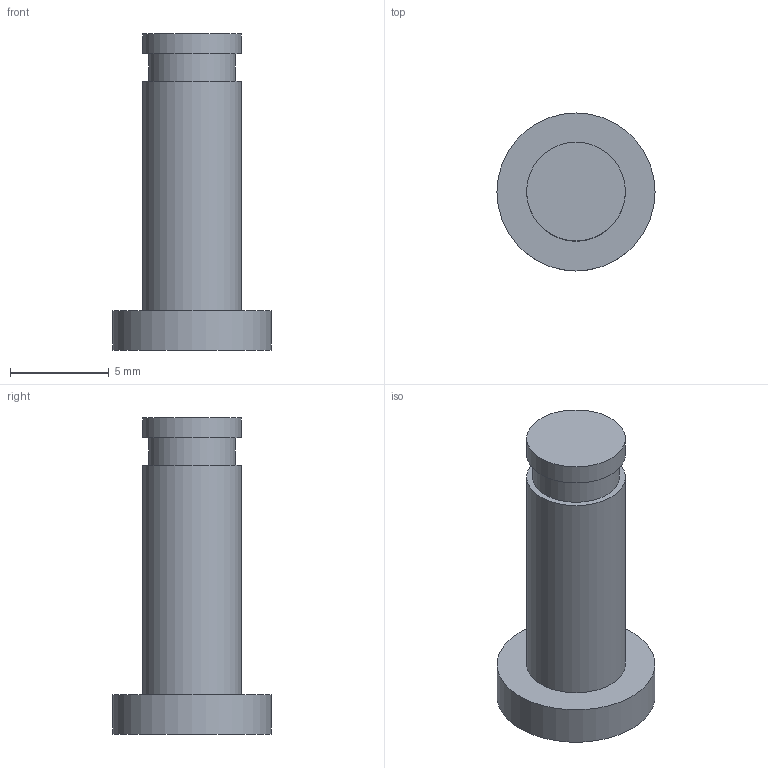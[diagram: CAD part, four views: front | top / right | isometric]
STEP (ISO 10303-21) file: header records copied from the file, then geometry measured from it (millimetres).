
FILE_DESCRIPTION(('Open CASCADE Model'),'2;1');
FILE_NAME('CP-PIN5','2026-11-15T22:30:30',('Author'),('Open CASCADE'), 'Open CASCADE STEP processor 8.0','build123d','Unknown');
FILE_SCHEMA(('AUTOMOTIVE_DESIGN { 1 0 10303 214 1 1 1 1 }'));
Length unit declared in the file: millimetre
Products named in the file (1): CP-PIN5
Bounding box: 8 x 8 x 16 mm (x, y, z)
Volume: 369.2 mm3; surface area: 376.9 mm2
Topology: 1 solids, 1 shells, 9 faces, 12 edges, 8 vertices
Faces by surface type: plane 5, cylinder 4
Full cylindrical faces by diameter (mm): 4.4 x1, 5 x2, 8 x1
Entity records: 360 total; most frequent: DIRECTION 64, CARTESIAN_POINT 54, ORIENTED_EDGE 24, PCURVE 24, DEFINITIONAL_REPRESENTATION 24, LINE 20, VECTOR 20, AXIS2_PLACEMENT_3D 18
